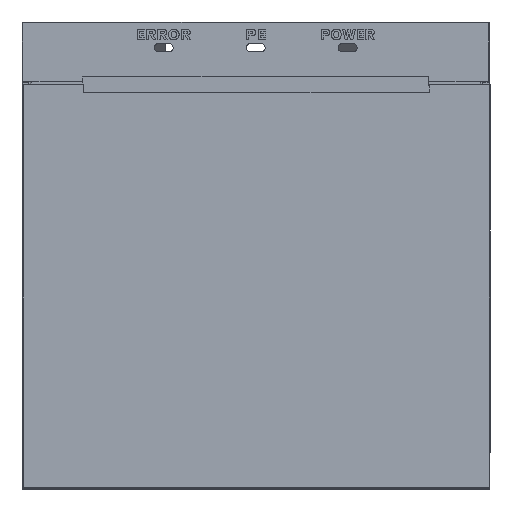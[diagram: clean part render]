
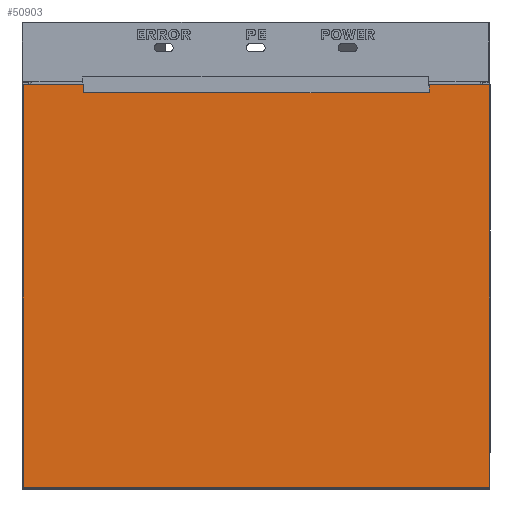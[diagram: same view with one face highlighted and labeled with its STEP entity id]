
A CAD part, top view. The second image highlights one B-rep face of the part: STEP entity #50903.
In plain terms, the highlighted planar face has unit normal (0, 0, 1).
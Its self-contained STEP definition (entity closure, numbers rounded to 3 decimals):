
#48440=DIRECTION('',(0.,1.,0.));
#48441=VECTOR('',#48440,109.497);
#48442=CARTESIAN_POINT('',(-63.354,0.503,
0.));
#48443=LINE('',#48442,#48441);
#48444=DIRECTION('',(0.,-1.,0.));
#48445=VECTOR('',#48444,2.172);
#48446=CARTESIAN_POINT('',(-47.,110.,0.));
#48447=LINE('',#48446,#48445);
#48448=DIRECTION('',(1.,0.,0.));
#48449=VECTOR('',#48448,94.);
#48450=CARTESIAN_POINT('',(-47.,107.828,0.));
#48451=LINE('',#48450,#48449);
#48452=DIRECTION('',(0.,1.,0.));
#48453=VECTOR('',#48452,2.172);
#48454=CARTESIAN_POINT('',(47.,107.828,0.));
#48455=LINE('',#48454,#48453);
#48456=DIRECTION('',(0.,-1.,0.));
#48457=VECTOR('',#48456,109.497);
#48458=CARTESIAN_POINT('',(63.354,110.,0.));
#48459=LINE('',#48458,#48457);
#48460=DIRECTION('',(-1.,0.,0.));
#48461=VECTOR('',#48460,126.709);
#48462=CARTESIAN_POINT('',(63.354,0.503,
0.));
#48463=LINE('',#48462,#48461);
#48536=DIRECTION('',(-1.,0.,0.));
#48537=VECTOR('',#48536,16.354);
#48538=CARTESIAN_POINT('',(-47.,110.,0.));
#48539=LINE('',#48538,#48537);
#49299=DIRECTION('',(-1.,0.,0.));
#49300=VECTOR('',#49299,16.354);
#49301=CARTESIAN_POINT('',(63.354,110.,0.));
#49302=LINE('',#49301,#49300);
#50276=CARTESIAN_POINT('',(63.354,110.,0.));
#50277=CARTESIAN_POINT('',(63.354,0.503,
0.));
#50278=VERTEX_POINT('',#50276);
#50279=VERTEX_POINT('',#50277);
#50289=CARTESIAN_POINT('',(-63.354,0.503,
0.));
#50290=CARTESIAN_POINT('',(-63.354,110.,0.));
#50291=VERTEX_POINT('',#50289);
#50292=VERTEX_POINT('',#50290);
#50293=CARTESIAN_POINT('',(-47.,110.,0.));
#50294=VERTEX_POINT('',#50293);
#50295=CARTESIAN_POINT('',(-47.,107.828,0.));
#50296=VERTEX_POINT('',#50295);
#50297=CARTESIAN_POINT('',(47.,107.828,0.));
#50298=VERTEX_POINT('',#50297);
#50299=CARTESIAN_POINT('',(47.,110.,0.));
#50300=VERTEX_POINT('',#50299);
#50881=CARTESIAN_POINT('',(63.5,109.,0.));
#50882=DIRECTION('',(0.,0.,1.));
#50883=DIRECTION('',(0.,-1.,0.));
#50884=AXIS2_PLACEMENT_3D('',#50881,#50882,#50883);
#50885=PLANE('',#50884);
#50887=ORIENTED_EDGE('',*,*,#50886,.T.);
#50889=ORIENTED_EDGE('',*,*,#50888,.F.);
#50891=ORIENTED_EDGE('',*,*,#50890,.T.);
#50893=ORIENTED_EDGE('',*,*,#50892,.T.);
#50895=ORIENTED_EDGE('',*,*,#50894,.T.);
#50897=ORIENTED_EDGE('',*,*,#50896,.F.);
#50898=ORIENTED_EDGE('',*,*,#50864,.T.);
#50900=ORIENTED_EDGE('',*,*,#50899,.T.);
#50901=EDGE_LOOP('',(#50887,#50889,#50891,#50893,#50895,#50897,#50898,#50900));
#50902=FACE_OUTER_BOUND('',#50901,.F.);
#50864=EDGE_CURVE('',#50278,#50279,#48459,.T.);
#50886=EDGE_CURVE('',#50291,#50292,#48443,.T.);
#50888=EDGE_CURVE('',#50294,#50292,#48539,.T.);
#50890=EDGE_CURVE('',#50294,#50296,#48447,.T.);
#50892=EDGE_CURVE('',#50296,#50298,#48451,.T.);
#50894=EDGE_CURVE('',#50298,#50300,#48455,.T.);
#50896=EDGE_CURVE('',#50278,#50300,#49302,.T.);
#50899=EDGE_CURVE('',#50279,#50291,#48463,.T.);
#50903=ADVANCED_FACE('',(#50902),#50885,.T.);
